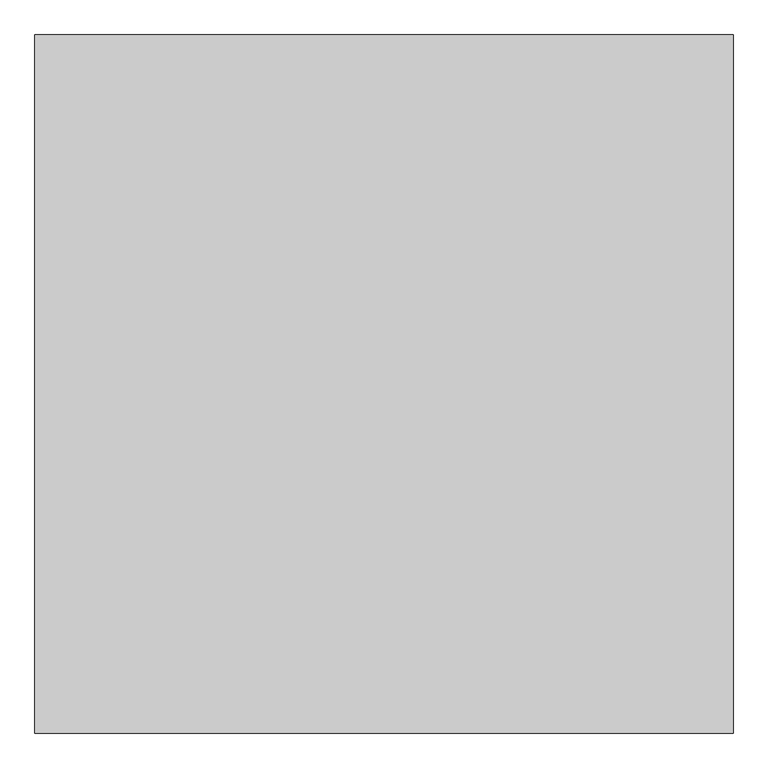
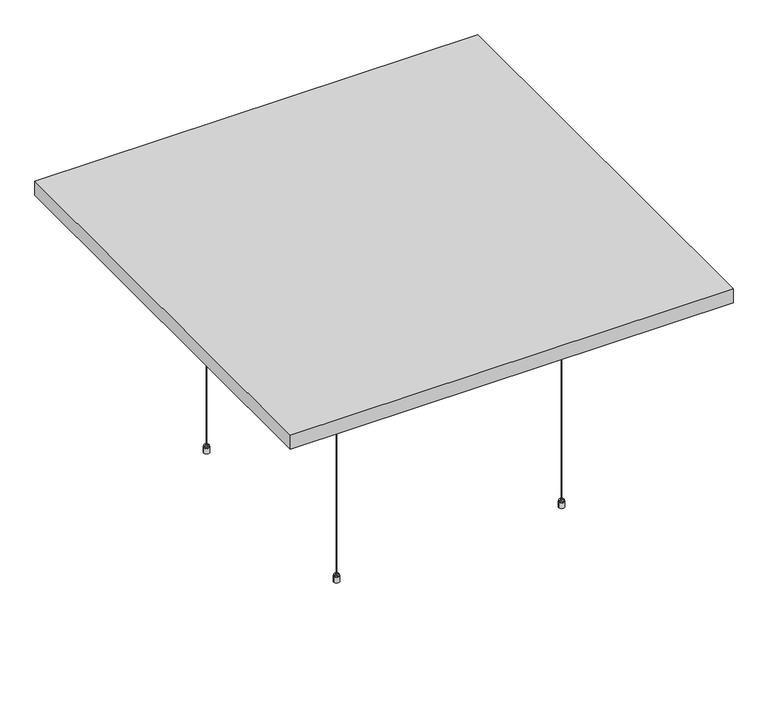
"""IFC4 building model written with IfcOpenShell, lengths in millimetres: proxy geometry, OWA Selecta : Selecta one."""

from ifc_helpers import new_model, si_unit, point, frame, frame_2d, origin, place, context, project, spatial, polyline, circle_curve, trimmed, segment, composite_curve, outline, extrude, source, transform, mapped, element, save
from ifc_brep_helpers import plane_surface, cylinder_surface, revolved_surface, advanced_brep


def specialty_equipment_c3a507bd(model_context):
    return source(origin(), model_context, "Body", "SolidModel", [
        advanced_brep(
        [(-738.5, 305.0, 0.0), (-730.7593825, 305.0, 0.0), (-746.2406175, 305.0, 0.0), (-730.7593825, 305.0, 15.0), (-746.2406175, 305.0, 15.0), (-731.6843825, 305.0, 15.0), (-745.3156175, 305.0, 15.0), (-731.6843825, 305.0, 19.0), (-745.3156175, 305.0, 19.0), (-736.4343825, 305.0, 19.0), (-740.5656175, 305.0, 19.0), (-736.4343825, 305.0, 22.546183), (-740.5656175, 305.0, 22.546183), (-738.5, 305.0, 22.546183)],
        [
            (0, 1),
            (1, 2, circle_curve(frame((-738.5, 305.0, 0.0), z_axis=(0.0, 0.0, -1.0), x_axis=(-1.0, 0.0, 0.0)), 7.7406175)),
            (2, 0),
            (2, 1, circle_curve(frame((-738.5, 305.0, 0.0), z_axis=(0.0, 0.0, -1.0), x_axis=(-1.0, 0.0, 0.0)), 7.7406175)),
            (1, 3),
            (3, 4, circle_curve(frame((-738.5, 305.0, 15.0), z_axis=(0.0, 0.0, -1.0), x_axis=(-1.0, 0.0, 0.0)), 7.7406175)),
            (4, 2),
            (4, 3, circle_curve(frame((-738.5, 305.0, 15.0), z_axis=(0.0, 0.0, -1.0), x_axis=(-1.0, 0.0, 0.0)), 7.7406175)),
            (3, 5),
            (5, 6, circle_curve(frame((-738.5, 305.0, 15.0), z_axis=(0.0, 0.0, -1.0), x_axis=(-1.0, 0.0, 0.0)), 6.8156175)),
            (6, 4),
            (6, 5, circle_curve(frame((-738.5, 305.0, 15.0), z_axis=(0.0, 0.0, -1.0), x_axis=(-1.0, 0.0, 0.0)), 6.8156175)),
            (5, 7),
            (7, 8, circle_curve(frame((-738.5, 305.0, 19.0), z_axis=(0.0, 0.0, -1.0), x_axis=(-1.0, 0.0, 0.0)), 6.8156175)),
            (8, 6),
            (8, 7, circle_curve(frame((-738.5, 305.0, 19.0), z_axis=(0.0, 0.0, -1.0), x_axis=(-1.0, 0.0, 0.0)), 6.8156175)),
            (7, 9),
            (9, 10, circle_curve(frame((-738.5, 305.0, 19.0), z_axis=(0.0, 0.0, -1.0), x_axis=(-1.0, 0.0, 0.0)), 2.0656175)),
            (10, 8),
            (10, 9, circle_curve(frame((-738.5, 305.0, 19.0), z_axis=(0.0, 0.0, -1.0), x_axis=(-1.0, 0.0, 0.0)), 2.0656175)),
            (9, 11),
            (11, 12, circle_curve(frame((-738.5, 305.0, 22.546183), z_axis=(0.0, 0.0, -1.0), x_axis=(-1.0, 0.0, 0.0)), 2.0656175)),
            (12, 10),
            (12, 11, circle_curve(frame((-738.5, 305.0, 22.546183), z_axis=(0.0, 0.0, -1.0), x_axis=(-1.0, 0.0, 0.0)), 2.0656175)),
            (11, 13),
            (13, 12),
        ],
        [
            plane_surface(frame((-738.5, 305.0, 0.0), z_axis=(0.0, 0.0, -1.0), x_axis=(-1.0, 0.0, 0.0))),
            cylinder_surface(frame((-738.5, 305.0, -10.0), z_axis=(0.0, 0.0, -1.0), x_axis=(-1.0, 0.0, 0.0)), 7.7406175),
            plane_surface(frame((-738.5, 305.0, 15.0), z_axis=(0.0, 0.0, 1.0), x_axis=(-1.0, 0.0, 0.0))),
            cylinder_surface(frame((-738.5, 305.0, -10.0), z_axis=(0.0, 0.0, -1.0), x_axis=(-1.0, 0.0, 0.0)), 6.8156175),
            plane_surface(frame((-738.5, 305.0, 19.0), z_axis=(0.0, 0.0, 1.0), x_axis=(-1.0, 0.0, 0.0))),
            cylinder_surface(frame((-738.5, 305.0, -10.0), z_axis=(0.0, 0.0, -1.0), x_axis=(-1.0, 0.0, 0.0)), 2.0656175),
            plane_surface(frame((-738.5, 305.0, 22.546183), z_axis=(0.0, 0.0, 1.0), x_axis=(-1.0, 0.0, 0.0))),
        ],
        [
            (0, [[1, 2, 3]]),
            (0, [[-3, 4, -1]]),
            (1, [[5, 6, 7, -2]]),
            (1, [[-7, 8, -5, -4]]),
            (2, [[9, 10, 11, -6]]),
            (2, [[-11, 12, -9, -8]]),
            (3, [[13, 14, 15, -10]]),
            (3, [[-15, 16, -13, -12]]),
            (4, [[17, 18, 19, -14]]),
            (4, [[-19, 20, -17, -16]]),
            (5, [[21, 22, 23, -18]]),
            (5, [[-23, 24, -21, -20]]),
            (6, [[25, 26, -22]]),
            (6, [[-26, -25, -24]]),
        ],
    ),
        advanced_brep(
        [(-736.2615389, 305.0, 628.8211737), (-736.1339453, 305.0, 632.8711737), (-740.8660547, 305.0, 632.8711737), (-740.7384611, 305.0, 628.8211737), (-733.6339453, 305.0, 632.8711737), (-743.3660547, 305.0, 632.8711737), (-733.6339453, 305.0, 658.1211737), (-743.3660547, 305.0, 658.1211737), (-722.6339453, 305.0, 658.1211737), (-754.3660547, 305.0, 658.1211737), (-722.6339453, 305.0, 660.0), (-754.3660547, 305.0, 660.0), (-738.5, 305.0, 660.0), (-738.5, 305.0, 628.8211737)],
        [
            (0, 1),
            (1, 2, circle_curve(frame((-738.5, 305.0, 632.8711737), z_axis=(0.0, 0.0, -1.0), x_axis=(-1.0, 0.0, 0.0)), 2.3660547)),
            (2, 3),
            (3, 0, circle_curve(frame((-738.5, 305.0, 628.8211737), z_axis=(0.0, 0.0, 1.0), x_axis=(-1.0, 0.0, 0.0)), 2.2384611)),
            (2, 1, circle_curve(frame((-738.5, 305.0, 632.8711737), z_axis=(0.0, 0.0, -1.0), x_axis=(-1.0, 0.0, 0.0)), 2.3660547)),
            (0, 3, circle_curve(frame((-738.5, 305.0, 628.8211737), z_axis=(0.0, 0.0, 1.0), x_axis=(-1.0, 0.0, 0.0)), 2.2384611)),
            (1, 4),
            (4, 5, circle_curve(frame((-738.5, 305.0, 632.8711737), z_axis=(0.0, 0.0, -1.0), x_axis=(-1.0, 0.0, 0.0)), 4.8660547)),
            (5, 2),
            (5, 4, circle_curve(frame((-738.5, 305.0, 632.8711737), z_axis=(0.0, 0.0, -1.0), x_axis=(-1.0, 0.0, 0.0)), 4.8660547)),
            (4, 6),
            (6, 7, circle_curve(frame((-738.5, 305.0, 658.1211737), z_axis=(0.0, 0.0, -1.0), x_axis=(-1.0, 0.0, 0.0)), 4.8660547)),
            (7, 5),
            (7, 6, circle_curve(frame((-738.5, 305.0, 658.1211737), z_axis=(0.0, 0.0, -1.0), x_axis=(-1.0, 0.0, 0.0)), 4.8660547)),
            (6, 8),
            (8, 9, circle_curve(frame((-738.5, 305.0, 658.1211737), z_axis=(0.0, 0.0, -1.0), x_axis=(-1.0, 0.0, 0.0)), 15.8660547)),
            (9, 7),
            (9, 8, circle_curve(frame((-738.5, 305.0, 658.1211737), z_axis=(0.0, 0.0, -1.0), x_axis=(-1.0, 0.0, 0.0)), 15.8660547)),
            (8, 10),
            (10, 11, circle_curve(frame((-738.5, 305.0, 660.0), z_axis=(0.0, 0.0, -1.0), x_axis=(-1.0, 0.0, 0.0)), 15.8660547)),
            (11, 9),
            (11, 10, circle_curve(frame((-738.5, 305.0, 660.0), z_axis=(0.0, 0.0, -1.0), x_axis=(-1.0, 0.0, 0.0)), 15.8660547)),
            (10, 12),
            (12, 11),
            (13, 0),
            (3, 13),
        ],
        [
            revolved_surface(polyline([(-740.8660547, 305.0, 632.8711737), (-740.7384611, 305.0, 628.8211737)]), (-738.5, 305.0, 661.8401096), (0.0, 0.0, -1.0)),
            plane_surface(frame((-738.5, 305.0, 632.8711737), z_axis=(0.0, 0.0, -1.0), x_axis=(-1.0, 0.0, 0.0))),
            cylinder_surface(frame((-738.5, 305.0, 661.8401096), z_axis=(0.0, 0.0, -1.0), x_axis=(-1.0, 0.0, 0.0)), 4.8660547),
            plane_surface(frame((-738.5, 305.0, 658.1211737), z_axis=(0.0, 0.0, -1.0), x_axis=(-1.0, 0.0, 0.0))),
            cylinder_surface(frame((-738.5, 305.0, 661.8401096), z_axis=(0.0, 0.0, -1.0), x_axis=(-1.0, 0.0, 0.0)), 15.8660547),
            plane_surface(frame((-738.5, 305.0, 660.0), z_axis=(0.0, 0.0, 1.0), x_axis=(-1.0, 0.0, 0.0))),
            plane_surface(frame((-738.5, 305.0, 628.8211737), z_axis=(0.0, 0.0, -1.0), x_axis=(-1.0, 0.0, 0.0))),
        ],
        [
            (0, [[1, 2, 3, 4]]),
            (0, [[-3, 5, -1, 6]]),
            (1, [[7, 8, 9, -2]]),
            (1, [[-9, 10, -7, -5]]),
            (2, [[11, 12, 13, -8]]),
            (2, [[-13, 14, -11, -10]]),
            (3, [[15, 16, 17, -12]]),
            (3, [[-17, 18, -15, -14]]),
            (4, [[19, 20, 21, -16]]),
            (4, [[-21, 22, -19, -18]]),
            (5, [[23, 24, -20]]),
            (5, [[-24, -23, -22]]),
            (6, [[25, -4, 26]]),
            (6, [[-26, -6, -25]]),
        ],
    ),
        extrude(outline(composite_curve([segment(trimmed(circle_curve(frame_2d((-738.5, 305.0)), 1.0), [point((-739.5, 305.0))], [point((-737.5, 305.0))], False, "CARTESIAN"), True, "CONTINUOUS"), segment(trimmed(circle_curve(frame_2d((-738.5, 305.0)), 1.0), [point((-737.5, 305.0))], [point((-739.5, 305.0))], False, "CARTESIAN"), True, "CONTINUOUS")], self_intersect=False)), frame((0.0, 0.0, 22.546183), z_axis=(0.0, 0.0, 1.0), x_axis=(1.0, 0.0, 0.0)), (0.0, 0.0, 1.0), 606.2749908),
        advanced_brep(
        [(-128.5, 305.0, 0.0), (-120.7593825, 305.0, 0.0), (-136.2406175, 305.0, 0.0), (-120.7593825, 305.0, 15.0), (-136.2406175, 305.0, 15.0), (-121.6843825, 305.0, 15.0), (-135.3156175, 305.0, 15.0), (-121.6843825, 305.0, 19.0), (-135.3156175, 305.0, 19.0), (-126.4343825, 305.0, 19.0), (-130.5656175, 305.0, 19.0), (-126.4343825, 305.0, 22.546183), (-130.5656175, 305.0, 22.546183), (-128.5, 305.0, 22.546183)],
        [
            (0, 1),
            (1, 2, circle_curve(frame((-128.5, 305.0, 0.0), z_axis=(0.0, 0.0, -1.0), x_axis=(1.0, 0.0, 0.0)), 7.7406175)),
            (2, 0),
            (2, 1, circle_curve(frame((-128.5, 305.0, 0.0), z_axis=(0.0, 0.0, -1.0), x_axis=(1.0, 0.0, 0.0)), 7.7406175)),
            (1, 3),
            (3, 4, circle_curve(frame((-128.5, 305.0, 15.0), z_axis=(0.0, 0.0, -1.0), x_axis=(1.0, 0.0, 0.0)), 7.7406175)),
            (4, 2),
            (4, 3, circle_curve(frame((-128.5, 305.0, 15.0), z_axis=(0.0, 0.0, -1.0), x_axis=(1.0, 0.0, 0.0)), 7.7406175)),
            (3, 5),
            (5, 6, circle_curve(frame((-128.5, 305.0, 15.0), z_axis=(0.0, 0.0, -1.0), x_axis=(1.0, 0.0, 0.0)), 6.8156175)),
            (6, 4),
            (6, 5, circle_curve(frame((-128.5, 305.0, 15.0), z_axis=(0.0, 0.0, -1.0), x_axis=(1.0, 0.0, 0.0)), 6.8156175)),
            (5, 7),
            (7, 8, circle_curve(frame((-128.5, 305.0, 19.0), z_axis=(0.0, 0.0, -1.0), x_axis=(1.0, 0.0, 0.0)), 6.8156175)),
            (8, 6),
            (8, 7, circle_curve(frame((-128.5, 305.0, 19.0), z_axis=(0.0, 0.0, -1.0), x_axis=(1.0, 0.0, 0.0)), 6.8156175)),
            (7, 9),
            (9, 10, circle_curve(frame((-128.5, 305.0, 19.0), z_axis=(0.0, 0.0, -1.0), x_axis=(1.0, 0.0, 0.0)), 2.0656175)),
            (10, 8),
            (10, 9, circle_curve(frame((-128.5, 305.0, 19.0), z_axis=(0.0, 0.0, -1.0), x_axis=(1.0, 0.0, 0.0)), 2.0656175)),
            (9, 11),
            (11, 12, circle_curve(frame((-128.5, 305.0, 22.546183), z_axis=(0.0, 0.0, -1.0), x_axis=(1.0, 0.0, 0.0)), 2.0656175)),
            (12, 10),
            (12, 11, circle_curve(frame((-128.5, 305.0, 22.546183), z_axis=(0.0, 0.0, -1.0), x_axis=(1.0, 0.0, 0.0)), 2.0656175)),
            (11, 13),
            (13, 12),
        ],
        [
            plane_surface(frame((-128.5, 305.0, 0.0), z_axis=(0.0, 0.0, -1.0), x_axis=(1.0, 0.0, 0.0))),
            cylinder_surface(frame((-128.5, 305.0, -10.0), z_axis=(0.0, 0.0, -1.0), x_axis=(1.0, 0.0, 0.0)), 7.7406175),
            plane_surface(frame((-128.5, 305.0, 15.0), z_axis=(0.0, 0.0, 1.0), x_axis=(1.0, 0.0, 0.0))),
            cylinder_surface(frame((-128.5, 305.0, -10.0), z_axis=(0.0, 0.0, -1.0), x_axis=(1.0, 0.0, 0.0)), 6.8156175),
            plane_surface(frame((-128.5, 305.0, 19.0), z_axis=(0.0, 0.0, 1.0), x_axis=(1.0, 0.0, 0.0))),
            cylinder_surface(frame((-128.5, 305.0, -10.0), z_axis=(0.0, 0.0, -1.0), x_axis=(1.0, 0.0, 0.0)), 2.0656175),
            plane_surface(frame((-128.5, 305.0, 22.546183), z_axis=(0.0, 0.0, 1.0), x_axis=(1.0, 0.0, 0.0))),
        ],
        [
            (0, [[1, 2, 3]]),
            (0, [[-3, 4, -1]]),
            (1, [[-2, 5, 6, 7]]),
            (1, [[-4, -7, 8, -5]]),
            (2, [[-6, 9, 10, 11]]),
            (2, [[-8, -11, 12, -9]]),
            (3, [[-10, 13, 14, 15]]),
            (3, [[-12, -15, 16, -13]]),
            (4, [[-14, 17, 18, 19]]),
            (4, [[-16, -19, 20, -17]]),
            (5, [[-18, 21, 22, 23]]),
            (5, [[-20, -23, 24, -21]]),
            (6, [[-22, 25, 26]]),
            (6, [[-24, -26, -25]]),
        ],
    ),
        advanced_brep(
        [(-130.7384611, 305.0, 628.8211737), (-126.2615389, 305.0, 628.8211737), (-126.1339453, 305.0, 632.8711737), (-130.8660547, 305.0, 632.8711737), (-123.6339453, 305.0, 632.8711737), (-133.3660547, 305.0, 632.8711737), (-123.6339453, 305.0, 658.1211737), (-133.3660547, 305.0, 658.1211737), (-112.6339453, 305.0, 658.1211737), (-144.3660547, 305.0, 658.1211737), (-112.6339453, 305.0, 660.0), (-144.3660547, 305.0, 660.0), (-128.5, 305.0, 660.0), (-128.5, 305.0, 628.8211737)],
        [
            (0, 1, circle_curve(frame((-128.5, 305.0, 628.8211737), z_axis=(0.0, 0.0, 1.0), x_axis=(1.0, 0.0, 0.0)), 2.2384611)),
            (1, 2),
            (2, 3, circle_curve(frame((-128.5, 305.0, 632.8711737), z_axis=(0.0, 0.0, -1.0), x_axis=(1.0, 0.0, 0.0)), 2.3660547)),
            (3, 0),
            (1, 0, circle_curve(frame((-128.5, 305.0, 628.8211737), z_axis=(0.0, 0.0, 1.0), x_axis=(1.0, 0.0, 0.0)), 2.2384611)),
            (3, 2, circle_curve(frame((-128.5, 305.0, 632.8711737), z_axis=(0.0, 0.0, -1.0), x_axis=(1.0, 0.0, 0.0)), 2.3660547)),
            (2, 4),
            (4, 5, circle_curve(frame((-128.5, 305.0, 632.8711737), z_axis=(0.0, 0.0, -1.0), x_axis=(1.0, 0.0, 0.0)), 4.8660547)),
            (5, 3),
            (5, 4, circle_curve(frame((-128.5, 305.0, 632.8711737), z_axis=(0.0, 0.0, -1.0), x_axis=(1.0, 0.0, 0.0)), 4.8660547)),
            (4, 6),
            (6, 7, circle_curve(frame((-128.5, 305.0, 658.1211737), z_axis=(0.0, 0.0, -1.0), x_axis=(1.0, 0.0, 0.0)), 4.8660547)),
            (7, 5),
            (7, 6, circle_curve(frame((-128.5, 305.0, 658.1211737), z_axis=(0.0, 0.0, -1.0), x_axis=(1.0, 0.0, 0.0)), 4.8660547)),
            (6, 8),
            (8, 9, circle_curve(frame((-128.5, 305.0, 658.1211737), z_axis=(0.0, 0.0, -1.0), x_axis=(1.0, 0.0, 0.0)), 15.8660547)),
            (9, 7),
            (9, 8, circle_curve(frame((-128.5, 305.0, 658.1211737), z_axis=(0.0, 0.0, -1.0), x_axis=(1.0, 0.0, 0.0)), 15.8660547)),
            (8, 10),
            (10, 11, circle_curve(frame((-128.5, 305.0, 660.0), z_axis=(0.0, 0.0, -1.0), x_axis=(1.0, 0.0, 0.0)), 15.8660547)),
            (11, 9),
            (11, 10, circle_curve(frame((-128.5, 305.0, 660.0), z_axis=(0.0, 0.0, -1.0), x_axis=(1.0, 0.0, 0.0)), 15.8660547)),
            (10, 12),
            (12, 11),
            (13, 1),
            (0, 13),
        ],
        [
            revolved_surface(polyline([(-126.1339453, 305.0, 632.8711737), (-126.2615389, 305.0, 628.8211737)]), (-128.5, 305.0, 661.8401096), (0.0, 0.0, -1.0)),
            plane_surface(frame((-128.5, 305.0, 632.8711737), z_axis=(0.0, 0.0, -1.0), x_axis=(1.0, 0.0, 0.0))),
            cylinder_surface(frame((-128.5, 305.0, 661.8401096), z_axis=(0.0, 0.0, -1.0), x_axis=(1.0, 0.0, 0.0)), 4.8660547),
            plane_surface(frame((-128.5, 305.0, 658.1211737), z_axis=(0.0, 0.0, -1.0), x_axis=(1.0, 0.0, 0.0))),
            cylinder_surface(frame((-128.5, 305.0, 661.8401096), z_axis=(0.0, 0.0, -1.0), x_axis=(1.0, 0.0, 0.0)), 15.8660547),
            plane_surface(frame((-128.5, 305.0, 660.0), z_axis=(0.0, 0.0, 1.0), x_axis=(1.0, 0.0, 0.0))),
            plane_surface(frame((-128.5, 305.0, 628.8211737), z_axis=(0.0, 0.0, -1.0), x_axis=(1.0, 0.0, 0.0))),
        ],
        [
            (0, [[1, 2, 3, 4]]),
            (0, [[5, -4, 6, -2]]),
            (1, [[-3, 7, 8, 9]]),
            (1, [[-6, -9, 10, -7]]),
            (2, [[-8, 11, 12, 13]]),
            (2, [[-10, -13, 14, -11]]),
            (3, [[-12, 15, 16, 17]]),
            (3, [[-14, -17, 18, -15]]),
            (4, [[-16, 19, 20, 21]]),
            (4, [[-18, -21, 22, -19]]),
            (5, [[-20, 23, 24]]),
            (5, [[-22, -24, -23]]),
            (6, [[25, -1, 26]]),
            (6, [[-26, -5, -25]]),
        ],
    ),
        extrude(outline(composite_curve([segment(trimmed(circle_curve(frame_2d((-128.5, 305.0)), 1.0), [point((-127.5, 305.0))], [point((-129.5, 305.0))], False, "CARTESIAN"), True, "CONTINUOUS"), segment(trimmed(circle_curve(frame_2d((-128.5, 305.0)), 1.0), [point((-129.5, 305.0))], [point((-127.5, 305.0))], False, "CARTESIAN"), True, "CONTINUOUS")], self_intersect=False)), frame((0.0, 0.0, 22.546183), z_axis=(0.0, 0.0, 1.0), x_axis=(1.0, 0.0, 0.0)), (0.0, 0.0, 1.0), 606.2749908),
        advanced_brep(
        [(-128.5, -305.0, 0.0), (-136.2406175, -305.0, 0.0), (-120.7593825, -305.0, 0.0), (-136.2406175, -305.0, 15.0), (-120.7593825, -305.0, 15.0), (-135.3156175, -305.0, 15.0), (-121.6843825, -305.0, 15.0), (-135.3156175, -305.0, 19.0), (-121.6843825, -305.0, 19.0), (-130.5656175, -305.0, 19.0), (-126.4343825, -305.0, 19.0), (-130.5656175, -305.0, 22.546183), (-126.4343825, -305.0, 22.546183), (-128.5, -305.0, 22.546183)],
        [
            (0, 1),
            (1, 2, circle_curve(frame((-128.5, -305.0, 0.0), z_axis=(0.0, 0.0, -1.0), x_axis=(1.0, 0.0, 0.0)), 7.7406175)),
            (2, 0),
            (2, 1, circle_curve(frame((-128.5, -305.0, 0.0), z_axis=(0.0, 0.0, -1.0), x_axis=(1.0, 0.0, 0.0)), 7.7406175)),
            (1, 3),
            (3, 4, circle_curve(frame((-128.5, -305.0, 15.0), z_axis=(0.0, 0.0, -1.0), x_axis=(1.0, 0.0, 0.0)), 7.7406175)),
            (4, 2),
            (4, 3, circle_curve(frame((-128.5, -305.0, 15.0), z_axis=(0.0, 0.0, -1.0), x_axis=(1.0, 0.0, 0.0)), 7.7406175)),
            (3, 5),
            (5, 6, circle_curve(frame((-128.5, -305.0, 15.0), z_axis=(0.0, 0.0, -1.0), x_axis=(1.0, 0.0, 0.0)), 6.8156175)),
            (6, 4),
            (6, 5, circle_curve(frame((-128.5, -305.0, 15.0), z_axis=(0.0, 0.0, -1.0), x_axis=(1.0, 0.0, 0.0)), 6.8156175)),
            (5, 7),
            (7, 8, circle_curve(frame((-128.5, -305.0, 19.0), z_axis=(0.0, 0.0, -1.0), x_axis=(1.0, 0.0, 0.0)), 6.8156175)),
            (8, 6),
            (8, 7, circle_curve(frame((-128.5, -305.0, 19.0), z_axis=(0.0, 0.0, -1.0), x_axis=(1.0, 0.0, 0.0)), 6.8156175)),
            (7, 9),
            (9, 10, circle_curve(frame((-128.5, -305.0, 19.0), z_axis=(0.0, 0.0, -1.0), x_axis=(1.0, 0.0, 0.0)), 2.0656175)),
            (10, 8),
            (10, 9, circle_curve(frame((-128.5, -305.0, 19.0), z_axis=(0.0, 0.0, -1.0), x_axis=(1.0, 0.0, 0.0)), 2.0656175)),
            (9, 11),
            (11, 12, circle_curve(frame((-128.5, -305.0, 22.546183), z_axis=(0.0, 0.0, -1.0), x_axis=(1.0, 0.0, 0.0)), 2.0656175)),
            (12, 10),
            (12, 11, circle_curve(frame((-128.5, -305.0, 22.546183), z_axis=(0.0, 0.0, -1.0), x_axis=(1.0, 0.0, 0.0)), 2.0656175)),
            (11, 13),
            (13, 12),
        ],
        [
            plane_surface(frame((-128.5, -305.0, 0.0), z_axis=(0.0, 0.0, -1.0), x_axis=(1.0, 0.0, 0.0))),
            cylinder_surface(frame((-128.5, -305.0, -10.0), z_axis=(0.0, 0.0, -1.0), x_axis=(1.0, 0.0, 0.0)), 7.7406175),
            plane_surface(frame((-128.5, -305.0, 15.0), z_axis=(0.0, 0.0, 1.0), x_axis=(1.0, 0.0, 0.0))),
            cylinder_surface(frame((-128.5, -305.0, -10.0), z_axis=(0.0, 0.0, -1.0), x_axis=(1.0, 0.0, 0.0)), 6.8156175),
            plane_surface(frame((-128.5, -305.0, 19.0), z_axis=(0.0, 0.0, 1.0), x_axis=(1.0, 0.0, 0.0))),
            cylinder_surface(frame((-128.5, -305.0, -10.0), z_axis=(0.0, 0.0, -1.0), x_axis=(1.0, 0.0, 0.0)), 2.0656175),
            plane_surface(frame((-128.5, -305.0, 22.546183), z_axis=(0.0, 0.0, 1.0), x_axis=(1.0, 0.0, 0.0))),
        ],
        [
            (0, [[1, 2, 3]]),
            (0, [[-3, 4, -1]]),
            (1, [[5, 6, 7, -2]]),
            (1, [[-7, 8, -5, -4]]),
            (2, [[9, 10, 11, -6]]),
            (2, [[-11, 12, -9, -8]]),
            (3, [[13, 14, 15, -10]]),
            (3, [[-15, 16, -13, -12]]),
            (4, [[17, 18, 19, -14]]),
            (4, [[-19, 20, -17, -16]]),
            (5, [[21, 22, 23, -18]]),
            (5, [[-23, 24, -21, -20]]),
            (6, [[25, 26, -22]]),
            (6, [[-26, -25, -24]]),
        ],
    ),
        advanced_brep(
        [(-130.7384611, -305.0, 628.8211737), (-130.8660547, -305.0, 632.8711737), (-126.1339453, -305.0, 632.8711737), (-126.2615389, -305.0, 628.8211737), (-133.3660547, -305.0, 632.8711737), (-123.6339453, -305.0, 632.8711737), (-133.3660547, -305.0, 658.1211737), (-123.6339453, -305.0, 658.1211737), (-144.3660547, -305.0, 658.1211737), (-112.6339453, -305.0, 658.1211737), (-144.3660547, -305.0, 660.0), (-112.6339453, -305.0, 660.0), (-128.5, -305.0, 660.0), (-128.5, -305.0, 628.8211737)],
        [
            (0, 1),
            (1, 2, circle_curve(frame((-128.5, -305.0, 632.8711737), z_axis=(0.0, 0.0, -1.0), x_axis=(1.0, 0.0, 0.0)), 2.3660547)),
            (2, 3),
            (3, 0, circle_curve(frame((-128.5, -305.0, 628.8211737), z_axis=(0.0, 0.0, 1.0), x_axis=(1.0, 0.0, 0.0)), 2.2384611)),
            (2, 1, circle_curve(frame((-128.5, -305.0, 632.8711737), z_axis=(0.0, 0.0, -1.0), x_axis=(1.0, 0.0, 0.0)), 2.3660547)),
            (0, 3, circle_curve(frame((-128.5, -305.0, 628.8211737), z_axis=(0.0, 0.0, 1.0), x_axis=(1.0, 0.0, 0.0)), 2.2384611)),
            (1, 4),
            (4, 5, circle_curve(frame((-128.5, -305.0, 632.8711737), z_axis=(0.0, 0.0, -1.0), x_axis=(1.0, 0.0, 0.0)), 4.8660547)),
            (5, 2),
            (5, 4, circle_curve(frame((-128.5, -305.0, 632.8711737), z_axis=(0.0, 0.0, -1.0), x_axis=(1.0, 0.0, 0.0)), 4.8660547)),
            (4, 6),
            (6, 7, circle_curve(frame((-128.5, -305.0, 658.1211737), z_axis=(0.0, 0.0, -1.0), x_axis=(1.0, 0.0, 0.0)), 4.8660547)),
            (7, 5),
            (7, 6, circle_curve(frame((-128.5, -305.0, 658.1211737), z_axis=(0.0, 0.0, -1.0), x_axis=(1.0, 0.0, 0.0)), 4.8660547)),
            (6, 8),
            (8, 9, circle_curve(frame((-128.5, -305.0, 658.1211737), z_axis=(0.0, 0.0, -1.0), x_axis=(1.0, 0.0, 0.0)), 15.8660547)),
            (9, 7),
            (9, 8, circle_curve(frame((-128.5, -305.0, 658.1211737), z_axis=(0.0, 0.0, -1.0), x_axis=(1.0, 0.0, 0.0)), 15.8660547)),
            (8, 10),
            (10, 11, circle_curve(frame((-128.5, -305.0, 660.0), z_axis=(0.0, 0.0, -1.0), x_axis=(1.0, 0.0, 0.0)), 15.8660547)),
            (11, 9),
            (11, 10, circle_curve(frame((-128.5, -305.0, 660.0), z_axis=(0.0, 0.0, -1.0), x_axis=(1.0, 0.0, 0.0)), 15.8660547)),
            (10, 12),
            (12, 11),
            (13, 0),
            (3, 13),
        ],
        [
            revolved_surface(polyline([(-126.1339453, -305.0, 632.8711737), (-126.2615389, -305.0, 628.8211737)]), (-128.5, -305.0, 661.8401096), (0.0, 0.0, -1.0)),
            plane_surface(frame((-128.5, -305.0, 632.8711737), z_axis=(0.0, 0.0, -1.0), x_axis=(1.0, 0.0, 0.0))),
            cylinder_surface(frame((-128.5, -305.0, 661.8401096), z_axis=(0.0, 0.0, -1.0), x_axis=(1.0, 0.0, 0.0)), 4.8660547),
            plane_surface(frame((-128.5, -305.0, 658.1211737), z_axis=(0.0, 0.0, -1.0), x_axis=(1.0, 0.0, 0.0))),
            cylinder_surface(frame((-128.5, -305.0, 661.8401096), z_axis=(0.0, 0.0, -1.0), x_axis=(1.0, 0.0, 0.0)), 15.8660547),
            plane_surface(frame((-128.5, -305.0, 660.0), z_axis=(0.0, 0.0, 1.0), x_axis=(1.0, 0.0, 0.0))),
            plane_surface(frame((-128.5, -305.0, 628.8211737), z_axis=(0.0, 0.0, -1.0), x_axis=(1.0, 0.0, 0.0))),
        ],
        [
            (0, [[1, 2, 3, 4]]),
            (0, [[-3, 5, -1, 6]]),
            (1, [[7, 8, 9, -2]]),
            (1, [[-9, 10, -7, -5]]),
            (2, [[11, 12, 13, -8]]),
            (2, [[-13, 14, -11, -10]]),
            (3, [[15, 16, 17, -12]]),
            (3, [[-17, 18, -15, -14]]),
            (4, [[19, 20, 21, -16]]),
            (4, [[-21, 22, -19, -18]]),
            (5, [[23, 24, -20]]),
            (5, [[-24, -23, -22]]),
            (6, [[25, -4, 26]]),
            (6, [[-26, -6, -25]]),
        ],
    ),
        extrude(outline(composite_curve([segment(trimmed(circle_curve(frame_2d((-128.5, -305.0)), 1.0), [point((-127.5, -305.0))], [point((-129.5, -305.0))], False, "CARTESIAN"), True, "CONTINUOUS"), segment(trimmed(circle_curve(frame_2d((-128.5, -305.0)), 1.0), [point((-129.5, -305.0))], [point((-127.5, -305.0))], False, "CARTESIAN"), True, "CONTINUOUS")], self_intersect=False)), frame((0.0, 0.0, 22.546183), z_axis=(0.0, 0.0, 1.0), x_axis=(1.0, 0.0, 0.0)), (0.0, 0.0, 1.0), 606.2749908),
        advanced_brep(
        [(-738.5, -305.0, 0.0), (-746.2406175, -305.0, 0.0), (-730.7593825, -305.0, 0.0), (-746.2406175, -305.0, 15.0), (-730.7593825, -305.0, 15.0), (-745.3156175, -305.0, 15.0), (-731.6843825, -305.0, 15.0), (-745.3156175, -305.0, 19.0), (-731.6843825, -305.0, 19.0), (-740.5656175, -305.0, 19.0), (-736.4343825, -305.0, 19.0), (-740.5656175, -305.0, 22.546183), (-736.4343825, -305.0, 22.546183), (-738.5, -305.0, 22.546183)],
        [
            (0, 1),
            (1, 2, circle_curve(frame((-738.5, -305.0, 0.0), z_axis=(0.0, 0.0, -1.0), x_axis=(-1.0, 0.0, 0.0)), 7.7406175)),
            (2, 0),
            (2, 1, circle_curve(frame((-738.5, -305.0, 0.0), z_axis=(0.0, 0.0, -1.0), x_axis=(-1.0, 0.0, 0.0)), 7.7406175)),
            (1, 3),
            (3, 4, circle_curve(frame((-738.5, -305.0, 15.0), z_axis=(0.0, 0.0, -1.0), x_axis=(-1.0, 0.0, 0.0)), 7.7406175)),
            (4, 2),
            (4, 3, circle_curve(frame((-738.5, -305.0, 15.0), z_axis=(0.0, 0.0, -1.0), x_axis=(-1.0, 0.0, 0.0)), 7.7406175)),
            (3, 5),
            (5, 6, circle_curve(frame((-738.5, -305.0, 15.0), z_axis=(0.0, 0.0, -1.0), x_axis=(-1.0, 0.0, 0.0)), 6.8156175)),
            (6, 4),
            (6, 5, circle_curve(frame((-738.5, -305.0, 15.0), z_axis=(0.0, 0.0, -1.0), x_axis=(-1.0, 0.0, 0.0)), 6.8156175)),
            (5, 7),
            (7, 8, circle_curve(frame((-738.5, -305.0, 19.0), z_axis=(0.0, 0.0, -1.0), x_axis=(-1.0, 0.0, 0.0)), 6.8156175)),
            (8, 6),
            (8, 7, circle_curve(frame((-738.5, -305.0, 19.0), z_axis=(0.0, 0.0, -1.0), x_axis=(-1.0, 0.0, 0.0)), 6.8156175)),
            (7, 9),
            (9, 10, circle_curve(frame((-738.5, -305.0, 19.0), z_axis=(0.0, 0.0, -1.0), x_axis=(-1.0, 0.0, 0.0)), 2.0656175)),
            (10, 8),
            (10, 9, circle_curve(frame((-738.5, -305.0, 19.0), z_axis=(0.0, 0.0, -1.0), x_axis=(-1.0, 0.0, 0.0)), 2.0656175)),
            (9, 11),
            (11, 12, circle_curve(frame((-738.5, -305.0, 22.546183), z_axis=(0.0, 0.0, -1.0), x_axis=(-1.0, 0.0, 0.0)), 2.0656175)),
            (12, 10),
            (12, 11, circle_curve(frame((-738.5, -305.0, 22.546183), z_axis=(0.0, 0.0, -1.0), x_axis=(-1.0, 0.0, 0.0)), 2.0656175)),
            (11, 13),
            (13, 12),
        ],
        [
            plane_surface(frame((-738.5, -305.0, 0.0), z_axis=(0.0, 0.0, -1.0), x_axis=(-1.0, 0.0, 0.0))),
            cylinder_surface(frame((-738.5, -305.0, -10.0), z_axis=(0.0, 0.0, -1.0), x_axis=(-1.0, 0.0, 0.0)), 7.7406175),
            plane_surface(frame((-738.5, -305.0, 15.0), z_axis=(0.0, 0.0, 1.0), x_axis=(-1.0, 0.0, 0.0))),
            cylinder_surface(frame((-738.5, -305.0, -10.0), z_axis=(0.0, 0.0, -1.0), x_axis=(-1.0, 0.0, 0.0)), 6.8156175),
            plane_surface(frame((-738.5, -305.0, 19.0), z_axis=(0.0, 0.0, 1.0), x_axis=(-1.0, 0.0, 0.0))),
            cylinder_surface(frame((-738.5, -305.0, -10.0), z_axis=(0.0, 0.0, -1.0), x_axis=(-1.0, 0.0, 0.0)), 2.0656175),
            plane_surface(frame((-738.5, -305.0, 22.546183), z_axis=(0.0, 0.0, 1.0), x_axis=(-1.0, 0.0, 0.0))),
        ],
        [
            (0, [[1, 2, 3]]),
            (0, [[-3, 4, -1]]),
            (1, [[-2, 5, 6, 7]]),
            (1, [[-4, -7, 8, -5]]),
            (2, [[-6, 9, 10, 11]]),
            (2, [[-8, -11, 12, -9]]),
            (3, [[-10, 13, 14, 15]]),
            (3, [[-12, -15, 16, -13]]),
            (4, [[-14, 17, 18, 19]]),
            (4, [[-16, -19, 20, -17]]),
            (5, [[-18, 21, 22, 23]]),
            (5, [[-20, -23, 24, -21]]),
            (6, [[-22, 25, 26]]),
            (6, [[-24, -26, -25]]),
        ],
    ),
        advanced_brep(
        [(-736.2615389, -305.0, 628.8211737), (-740.7384611, -305.0, 628.8211737), (-740.8660547, -305.0, 632.8711737), (-736.1339453, -305.0, 632.8711737), (-743.3660547, -305.0, 632.8711737), (-733.6339453, -305.0, 632.8711737), (-743.3660547, -305.0, 658.1211737), (-733.6339453, -305.0, 658.1211737), (-754.3660547, -305.0, 658.1211737), (-722.6339453, -305.0, 658.1211737), (-754.3660547, -305.0, 660.0), (-722.6339453, -305.0, 660.0), (-738.5, -305.0, 660.0), (-738.5, -305.0, 628.8211737)],
        [
            (0, 1, circle_curve(frame((-738.5, -305.0, 628.8211737), z_axis=(0.0, 0.0, 1.0), x_axis=(-1.0, 0.0, 0.0)), 2.2384611)),
            (1, 2),
            (2, 3, circle_curve(frame((-738.5, -305.0, 632.8711737), z_axis=(0.0, 0.0, -1.0), x_axis=(-1.0, 0.0, 0.0)), 2.3660547)),
            (3, 0),
            (1, 0, circle_curve(frame((-738.5, -305.0, 628.8211737), z_axis=(0.0, 0.0, 1.0), x_axis=(-1.0, 0.0, 0.0)), 2.2384611)),
            (3, 2, circle_curve(frame((-738.5, -305.0, 632.8711737), z_axis=(0.0, 0.0, -1.0), x_axis=(-1.0, 0.0, 0.0)), 2.3660547)),
            (2, 4),
            (4, 5, circle_curve(frame((-738.5, -305.0, 632.8711737), z_axis=(0.0, 0.0, -1.0), x_axis=(-1.0, 0.0, 0.0)), 4.8660547)),
            (5, 3),
            (5, 4, circle_curve(frame((-738.5, -305.0, 632.8711737), z_axis=(0.0, 0.0, -1.0), x_axis=(-1.0, 0.0, 0.0)), 4.8660547)),
            (4, 6),
            (6, 7, circle_curve(frame((-738.5, -305.0, 658.1211737), z_axis=(0.0, 0.0, -1.0), x_axis=(-1.0, 0.0, 0.0)), 4.8660547)),
            (7, 5),
            (7, 6, circle_curve(frame((-738.5, -305.0, 658.1211737), z_axis=(0.0, 0.0, -1.0), x_axis=(-1.0, 0.0, 0.0)), 4.8660547)),
            (6, 8),
            (8, 9, circle_curve(frame((-738.5, -305.0, 658.1211737), z_axis=(0.0, 0.0, -1.0), x_axis=(-1.0, 0.0, 0.0)), 15.8660547)),
            (9, 7),
            (9, 8, circle_curve(frame((-738.5, -305.0, 658.1211737), z_axis=(0.0, 0.0, -1.0), x_axis=(-1.0, 0.0, 0.0)), 15.8660547)),
            (8, 10),
            (10, 11, circle_curve(frame((-738.5, -305.0, 660.0), z_axis=(0.0, 0.0, -1.0), x_axis=(-1.0, 0.0, 0.0)), 15.8660547)),
            (11, 9),
            (11, 10, circle_curve(frame((-738.5, -305.0, 660.0), z_axis=(0.0, 0.0, -1.0), x_axis=(-1.0, 0.0, 0.0)), 15.8660547)),
            (10, 12),
            (12, 11),
            (13, 1),
            (0, 13),
        ],
        [
            revolved_surface(polyline([(-740.8660547, -305.0, 632.8711737), (-740.7384611, -305.0, 628.8211737)]), (-738.5, -305.0, 661.8401096), (0.0, 0.0, -1.0)),
            plane_surface(frame((-738.5, -305.0, 632.8711737), z_axis=(0.0, 0.0, -1.0), x_axis=(-1.0, 0.0, 0.0))),
            cylinder_surface(frame((-738.5, -305.0, 661.8401096), z_axis=(0.0, 0.0, -1.0), x_axis=(-1.0, 0.0, 0.0)), 4.8660547),
            plane_surface(frame((-738.5, -305.0, 658.1211737), z_axis=(0.0, 0.0, -1.0), x_axis=(-1.0, 0.0, 0.0))),
            cylinder_surface(frame((-738.5, -305.0, 661.8401096), z_axis=(0.0, 0.0, -1.0), x_axis=(-1.0, 0.0, 0.0)), 15.8660547),
            plane_surface(frame((-738.5, -305.0, 660.0), z_axis=(0.0, 0.0, 1.0), x_axis=(-1.0, 0.0, 0.0))),
            plane_surface(frame((-738.5, -305.0, 628.8211737), z_axis=(0.0, 0.0, -1.0), x_axis=(-1.0, 0.0, 0.0))),
        ],
        [
            (0, [[1, 2, 3, 4]]),
            (0, [[5, -4, 6, -2]]),
            (1, [[-3, 7, 8, 9]]),
            (1, [[-6, -9, 10, -7]]),
            (2, [[-8, 11, 12, 13]]),
            (2, [[-10, -13, 14, -11]]),
            (3, [[-12, 15, 16, 17]]),
            (3, [[-14, -17, 18, -15]]),
            (4, [[-16, 19, 20, 21]]),
            (4, [[-18, -21, 22, -19]]),
            (5, [[-20, 23, 24]]),
            (5, [[-22, -24, -23]]),
            (6, [[25, -1, 26]]),
            (6, [[-26, -5, -25]]),
        ],
    ),
        extrude(outline(composite_curve([segment(trimmed(circle_curve(frame_2d((-738.5, -305.0)), 1.0), [point((-739.5, -305.0))], [point((-737.5, -305.0))], False, "CARTESIAN"), True, "CONTINUOUS"), segment(trimmed(circle_curve(frame_2d((-738.5, -305.0)), 1.0), [point((-737.5, -305.0))], [point((-739.5, -305.0))], False, "CARTESIAN"), True, "CONTINUOUS")], self_intersect=False)), frame((0.0, 0.0, 22.546183), z_axis=(0.0, 0.0, 1.0), x_axis=(1.0, 0.0, 0.0)), (0.0, 0.0, 1.0), 606.2749908),
        extrude(outline(polyline([(166.5, 600.0), (166.5, -600.0), (-1033.5, -600.0), (-1033.5, 600.0), (166.5, 600.0)])), frame((0.0, 0.0, 660.0), z_axis=(0.0, 0.0, 1.0), x_axis=(1.0, 0.0, 0.0)), (0.0, 0.0, 1.0), 40.0),
    ])


if __name__ == "__main__":
    model = new_model("IFC4")
    model_context = context("Model", 3, world=origin())
    ifc_project = project(units=[si_unit("LENGTHUNIT", "METRE", prefix="MILLI")], contexts=[model_context])
    site = spatial("IfcSite", under=ifc_project)
    building = spatial("IfcBuilding", under=site)
    placement = place(None, origin())
    specialty_equipment_shape = specialty_equipment_c3a507bd(model_context)
    element("IfcBuildingElementProxy", 1, Name="OWA Selecta : Selecta one", ObjectType="OWA Selecta : Selecta one", at=placement, inside=building, context=model_context, shape_type="MappedRepresentation", body=[
        mapped(specialty_equipment_shape, transform((0.0, 0.0, 0.0), x_axis=(1.0, 0.0, 0.0), y_axis=(0.0, 1.0, 0.0), z_axis=(0.0, 0.0, 1.0))),
    ])
    save(model, "model.ifc")
